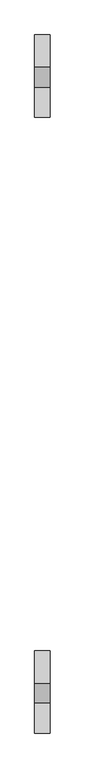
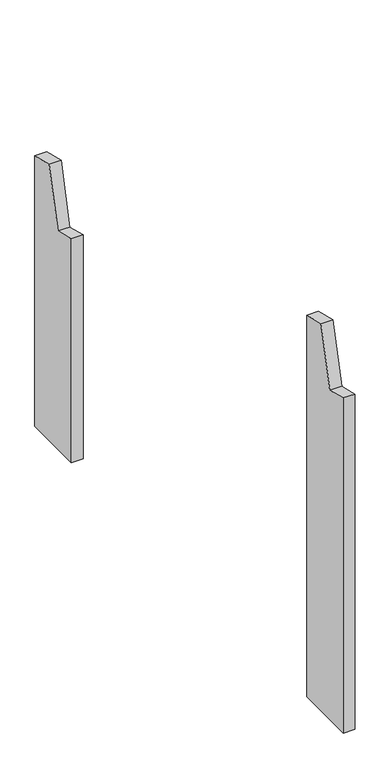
"""IFC4 building model written with IfcOpenShell, lengths in millimetres: proxy geometry, Modelos genéricos 6 : Modelos genéricos 5."""

from ifc_helpers import new_model, si_unit, frame, origin, place, context, project, spatial, polyline, outline, extrude, source, transform, mapped, element, save


def generic_models_4e4f0474(model_context):
    return source(origin(), model_context, "Body", "SweptSolid", [
        extrude(outline(polyline([(3268.6238165, 3000.0), (3268.6238165, 3898.0915281), (3326.8415601, 3883.5762143), (3365.5490634, 4038.8235305), (3428.6238165, 4023.0972283), (3428.6238165, 3000.0), (3268.6238165, 3000.0)])), frame((-12616.5527533, 0.0, 0.0), z_axis=(1.0, 0.0, 0.0), x_axis=(0.0, 1.0, 0.0)), (0.0, 0.0, 1.0), 30.0),
        extrude(outline(polyline([(4463.6238165, 3000.0), (4463.6238165, 3600.1445647), (4521.8415601, 3585.6292509), (4560.5490634, 3740.8765671), (4623.6238165, 3725.1502649), (4623.6238165, 3000.0), (4463.6238165, 3000.0)])), frame((-12616.5527533, 0.0, 0.0), z_axis=(1.0, 0.0, 0.0), x_axis=(0.0, 1.0, 0.0)), (0.0, 0.0, 1.0), 30.0),
    ])


if __name__ == "__main__":
    model = new_model("IFC4")
    model_context = context("Model", 3, world=origin())
    ifc_project = project(units=[si_unit("LENGTHUNIT", "METRE", prefix="MILLI")], contexts=[model_context])
    site = spatial("IfcSite", under=ifc_project)
    building = spatial("IfcBuilding", under=site)
    placement = place(None, origin())
    generic_models_shape = generic_models_4e4f0474(model_context)
    element("IfcBuildingElementProxy", 1, Name="Modelos genéricos 6 : Modelos genéricos 5", ObjectType="Modelos genéricos 6 : Modelos genéricos 5", at=placement, inside=building, context=model_context, shape_type="MappedRepresentation", body=[
        mapped(generic_models_shape, transform((0.0, 0.0, 0.0), x_axis=(1.0, 0.0, 0.0), y_axis=(0.0, 1.0, 0.0), z_axis=(0.0, 0.0, 1.0))),
    ])
    save(model, "model.ifc")
